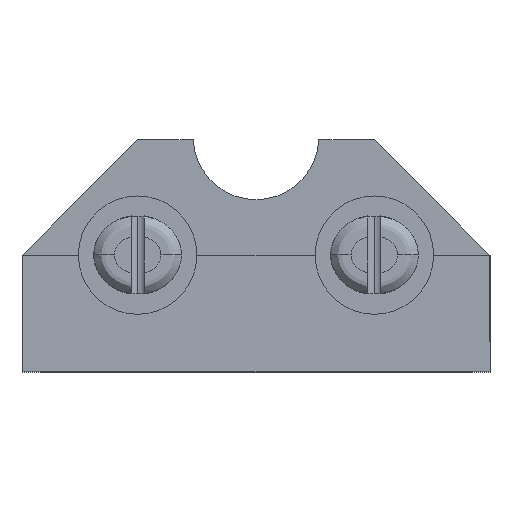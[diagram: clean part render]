
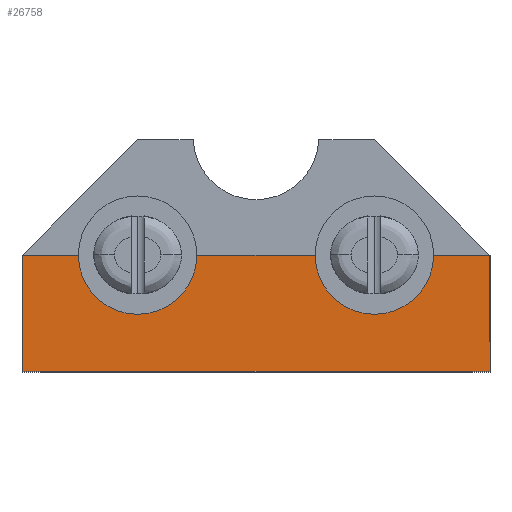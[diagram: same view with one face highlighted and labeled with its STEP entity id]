
A CAD part, top view. The second image highlights one B-rep face of the part: STEP entity #26758.
In plain terms, the highlighted planar face has unit normal (0, 0, 1).
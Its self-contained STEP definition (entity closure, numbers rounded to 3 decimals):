
#569 = DIRECTION ( 'NONE',  ( 0., -1., 0. ) ) ;
#768 = VERTEX_POINT ( 'NONE', #2590 ) ;
#1188 = EDGE_CURVE ( 'NONE', #7901, #4388, #20892, .T. ) ;
#1447 = DIRECTION ( 'NONE',  ( 0., 0., -1. ) ) ;
#1574 = EDGE_CURVE ( 'NONE', #24232, #26886, #17193, .T. ) ;
#1987 = DIRECTION ( 'NONE',  ( 1., 0., 0. ) ) ;
#2590 = CARTESIAN_POINT ( 'NONE',  ( 6.2, -6.225, 38.1 ) ) ;
#3459 = CARTESIAN_POINT ( 'NONE',  ( -12.7, 0., 38.1 ) ) ;
#3574 = VECTOR ( 'NONE', #3674, 1000. ) ;
#3674 = DIRECTION ( 'NONE',  ( 1., 0., 0. ) ) ;
#3887 = EDGE_CURVE ( 'NONE', #26886, #768, #11587, .T. ) ;
#4388 = VERTEX_POINT ( 'NONE', #19523 ) ;
#5314 = AXIS2_PLACEMENT_3D ( 'NONE', #3459, #10083, #19058 ) ;
#5517 = CARTESIAN_POINT ( 'NONE',  ( -3.175, 0., 38.1 ) ) ;
#5740 = LINE ( 'NONE', #7800, #16626 ) ;
#5803 = VECTOR ( 'NONE', #569, 1000. ) ;
#6321 = EDGE_CURVE ( 'NONE', #4388, #14529, #7651, .T. ) ;
#6601 = CARTESIAN_POINT ( 'NONE',  ( -18.9, 0., 38.1 ) ) ;
#7033 = CARTESIAN_POINT ( 'NONE',  ( 6.2, -2.175, 38.1 ) ) ;
#7150 = ORIENTED_EDGE ( 'NONE', *, *, #10623, .F. ) ;
#7651 = CIRCLE ( 'NONE', #5314, 3.175 ) ;
#7758 = AXIS2_PLACEMENT_3D ( 'NONE', #15261, #1447, #10275 ) ;
#7800 = CARTESIAN_POINT ( 'NONE',  ( -18.9, -6.225, 38.1 ) ) ;
#7901 = VERTEX_POINT ( 'NONE', #6601 ) ;
#8709 = DIRECTION ( 'NONE',  ( 0., -1., 0. ) ) ;
#9131 = CARTESIAN_POINT ( 'NONE',  ( -9.525, 0., 38.1 ) ) ;
#10083 = DIRECTION ( 'NONE',  ( 0., 0., 1. ) ) ;
#10275 = DIRECTION ( 'NONE',  ( -1., 0., 0. ) ) ;
#10291 = DIRECTION ( 'NONE',  ( 1., 0., 0. ) ) ;
#10623 = EDGE_CURVE ( 'NONE', #22639, #24232, #22582, .T. ) ;
#10700 = PLANE ( 'NONE',  #7758 ) ;
#10819 = ORIENTED_EDGE ( 'NONE', *, *, #6321, .F. ) ;
#11082 = EDGE_LOOP ( 'NONE', ( #13823, #22287, #21706, #15277, #15494, #7150, #19268, #10819 ) ) ;
#11587 = LINE ( 'NONE', #7033, #5803 ) ;
#12359 = DIRECTION ( 'NONE',  ( 1., 0., 0. ) ) ;
#12422 = DIRECTION ( 'NONE',  ( 0., 0., 1. ) ) ;
#13823 = ORIENTED_EDGE ( 'NONE', *, *, #1188, .F. ) ;
#14529 = VERTEX_POINT ( 'NONE', #9131 ) ;
#15210 = VECTOR ( 'NONE', #1987, 1000. ) ;
#15261 = CARTESIAN_POINT ( 'NONE',  ( 6.2, -2.175, 38.1 ) ) ;
#15277 = ORIENTED_EDGE ( 'NONE', *, *, #3887, .F. ) ;
#15494 = ORIENTED_EDGE ( 'NONE', *, *, #1574, .F. ) ;
#15656 = LINE ( 'NONE', #22126, #15210 ) ;
#16179 = VECTOR ( 'NONE', #8709, 1000. ) ;
#16626 = VECTOR ( 'NONE', #10291, 1000. ) ;
#17193 = LINE ( 'NONE', #28806, #3574 ) ;
#17823 = CARTESIAN_POINT ( 'NONE',  ( -18.9, -6.225, 38.1 ) ) ;
#19058 = DIRECTION ( 'NONE',  ( -1., 0., 0. ) ) ;
#19268 = ORIENTED_EDGE ( 'NONE', *, *, #27941, .F. ) ;
#19523 = CARTESIAN_POINT ( 'NONE',  ( -15.875, 0., 38.1 ) ) ;
#20892 = LINE ( 'NONE', #23525, #27016 ) ;
#21103 = DIRECTION ( 'NONE',  ( -1., 0., 0. ) ) ;
#21706 = ORIENTED_EDGE ( 'NONE', *, *, #28194, .T. ) ;
#22126 = CARTESIAN_POINT ( 'NONE',  ( 6.2, 0., 38.1 ) ) ;
#22162 = FACE_OUTER_BOUND ( 'NONE', #11082, .T. ) ;
#22287 = ORIENTED_EDGE ( 'NONE', *, *, #25910, .T. ) ;
#22582 = CIRCLE ( 'NONE', #26811, 3.175 ) ;
#22639 = VERTEX_POINT ( 'NONE', #5517 ) ;
#23525 = CARTESIAN_POINT ( 'NONE',  ( 6.2, 0., 38.1 ) ) ;
#24147 = CARTESIAN_POINT ( 'NONE',  ( -18.9, -2.175, 38.1 ) ) ;
#24232 = VERTEX_POINT ( 'NONE', #28650 ) ;
#24438 = LINE ( 'NONE', #24147, #16179 ) ;
#24800 = CARTESIAN_POINT ( 'NONE',  ( 6.2, 0., 38.1 ) ) ;
#25463 = VERTEX_POINT ( 'NONE', #17823 ) ;
#25910 = EDGE_CURVE ( 'NONE', #7901, #25463, #24438, .T. ) ;
#25947 = CARTESIAN_POINT ( 'NONE',  ( 0., 0., 38.1 ) ) ;
#26758 = ADVANCED_FACE ( 'NONE', ( #22162 ), #10700, .F. ) ;
#26811 = AXIS2_PLACEMENT_3D ( 'NONE', #25947, #12422, #21103 ) ;
#26886 = VERTEX_POINT ( 'NONE', #24800 ) ;
#27016 = VECTOR ( 'NONE', #12359, 1000. ) ;
#27941 = EDGE_CURVE ( 'NONE', #14529, #22639, #15656, .T. ) ;
#28194 = EDGE_CURVE ( 'NONE', #25463, #768, #5740, .T. ) ;
#28650 = CARTESIAN_POINT ( 'NONE',  ( 3.175, 0., 38.1 ) ) ;
#28806 = CARTESIAN_POINT ( 'NONE',  ( 6.2, 0., 38.1 ) ) ;
